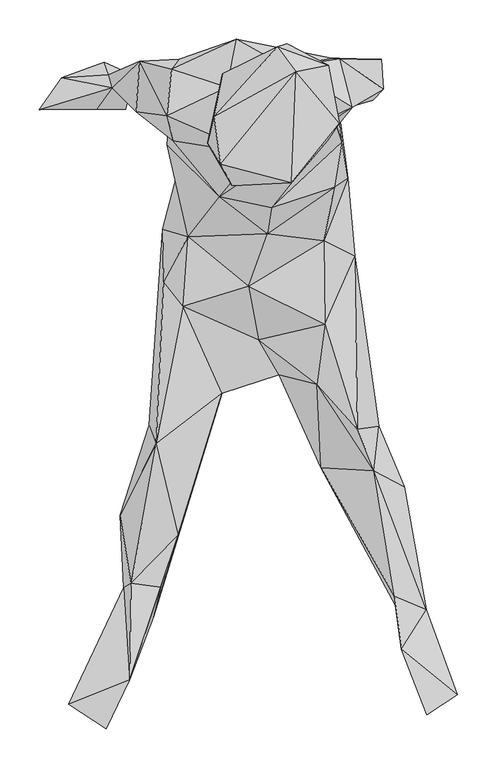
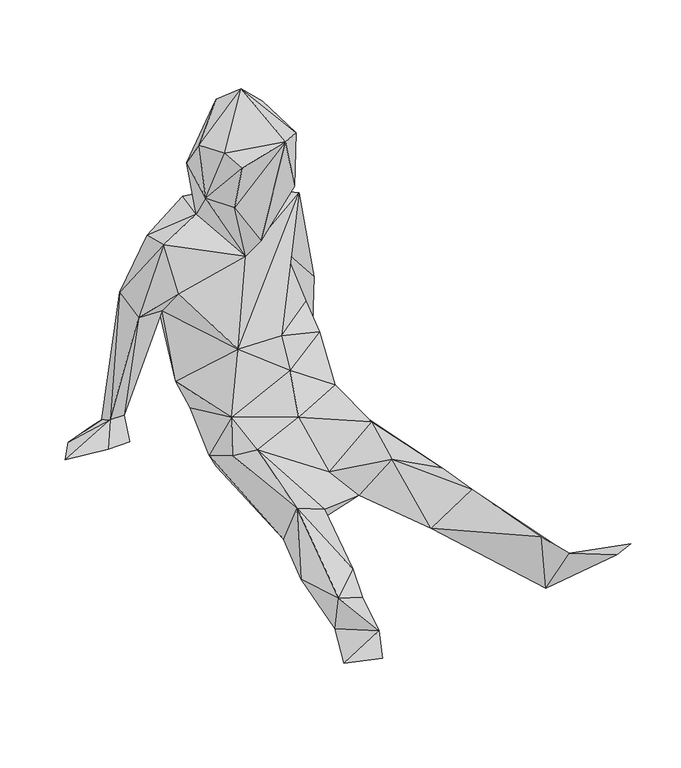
"""IFC4 building model written with IfcOpenShell, lengths in millimetres: geographic element geometry, Enscape AssetDefinition - Leon 001 Sitting : Enscape AssetDefinition - Leon 001 Sitting."""

import ifcopenshell
import ifcopenshell.guid

model = None  # the IFC model being written
_history = None  # IfcOwnerHistory: only IFC2X3 demands one
_inside = {}  # id of a spatial element -> (the spatial element, [elements in it])
_under = {}  # id of a project, library or spatial element -> (it, [spatial elements below it])
_declared = {}  # id of a project -> (the project, [libraries it declares])
_typed = {}  # id of a type object -> (the type object, [elements of that type])
_made_of = {}  # id of a material, layer set ... -> (it, [elements and type objects made of it])


def new_model(schema):
    """Start an empty IFC model of exactly this schema.

    Asked for "IFC4X3", IfcOpenShell would pick the latest addendum, in which some entities
    have other attributes; the version numbers below select the first issue.
    IFC2X3 requires an IfcOwnerHistory on every rooted entity: one is made here for all.
    """
    global model, _history
    if schema == "IFC4X3":
        model = ifcopenshell.file(schema_version=(4, 3, 0, 0))
    else:
        model = ifcopenshell.file(schema=schema)
    _inside.clear()
    _under.clear()
    _declared.clear()
    _typed.clear()
    _made_of.clear()
    _history = None
    if model.schema == "IFC2X3":
        org = make("IfcOrganization", Name="unknown")
        user = make(
            "IfcPersonAndOrganization",
            ThePerson=make("IfcPerson", FamilyName="unknown"),
            TheOrganization=org,
        )
        app = make(
            "IfcApplication",
            ApplicationDeveloper=org,
            Version="unknown",
            ApplicationFullName="unknown",
            ApplicationIdentifier="unknown",
        )
        _history = make(
            "IfcOwnerHistory",
            OwningUser=user,
            OwningApplication=app,
            ChangeAction="ADDED",
            CreationDate=0,
        )
    return model


def make(cls, **values):
    """One entity of the class cls with the attributes given. An attribute that is None is left unset."""
    return model.create_entity(
        cls, **{name: value for name, value in values.items() if value is not None}
    )


def rooted(cls, **values):
    """An entity with a GlobalId (a new one), such as an element, a storey or a relation."""
    return make(cls, GlobalId=ifcopenshell.guid.new(), OwnerHistory=_history, **values)


def si_unit(unit_type, name, prefix=None):
    """IfcSIUnit, for example si_unit("LENGTHUNIT", "METRE", prefix="MILLI")."""
    return make("IfcSIUnit", UnitType=unit_type, Prefix=prefix, Name=name)


def assignment(units):
    """IfcUnitAssignment: the units of a project."""
    return None if units is None else make("IfcUnitAssignment", Units=units)


def point(xyz):
    """IfcCartesianPoint."""
    return None if xyz is None else make("IfcCartesianPoint", Coordinates=xyz)


def direction(xyz):
    """IfcDirection."""
    return None if xyz is None else make("IfcDirection", DirectionRatios=xyz)


def frame(location, z_axis=None, x_axis=None):
    """IfcAxis2Placement3D, a coordinate frame: its origin and axes. An axis left out is left unset."""
    return make(
        "IfcAxis2Placement3D",
        Location=point(location),
        Axis=direction(z_axis),
        RefDirection=direction(x_axis),
    )


def origin():
    """The frame at (0, 0, 0) with its axes left unset."""
    return frame((0.0, 0.0, 0.0))


def place(relative_to, where):
    """IfcLocalPlacement: puts the frame where relative to a parent placement (None: the world)."""
    return make(
        "IfcLocalPlacement", PlacementRelTo=relative_to, RelativePlacement=where
    )


def context(
    kind, dimensions, precision=None, world=None, true_north=None, identifier=None
):
    """IfcGeometricRepresentationContext, for example the 3D "Model" context."""
    return make(
        "IfcGeometricRepresentationContext",
        ContextIdentifier=identifier,
        ContextType=kind,
        CoordinateSpaceDimension=dimensions,
        Precision=precision,
        WorldCoordinateSystem=world,
        TrueNorth=true_north,
    )


def project(units=None, contexts=None):
    """IfcProject with its units and contexts."""
    return rooted(
        "IfcProject",
        Name="project",
        RepresentationContexts=contexts,
        UnitsInContext=assignment(units),
    )


def spatial(cls, under=None, at=None, **own):
    """A site, building, storey or space (cls), placed at a placement, below another one or the project."""
    s = rooted(cls, ObjectPlacement=at, **own)
    if under is not None:
        _under.setdefault(under.id(), (under, []))[1].append(s)
    return s


def point_list(points):
    """IfcCartesianPointList2D or 3D."""
    cls = (
        "IfcCartesianPointList2D" if len(points[0]) == 2 else "IfcCartesianPointList3D"
    )
    return make(cls, CoordList=points)


def triangles(points, corners, closed=None, point_numbers=None):
    """IfcTriangulatedFaceSet: each triangle names its three corners, points numbered from 1."""
    return make(
        "IfcTriangulatedFaceSet",
        Coordinates=point_list(points),
        Closed=closed,
        CoordIndex=corners,
        PnIndex=point_numbers,
    )


def shape(context_of_items, identifier, shape_type, items):
    """IfcShapeRepresentation: the items that make up one representation, for example the "Body"."""
    return make(
        "IfcShapeRepresentation",
        ContextOfItems=context_of_items,
        RepresentationIdentifier=identifier,
        RepresentationType=shape_type,
        Items=items,
    )


def source(mapping_origin, context_of_items, identifier, shape_type, items):
    """IfcRepresentationMap: a shape defined once, which mapped items show again and again."""
    return make(
        "IfcRepresentationMap",
        MappingOrigin=mapping_origin,
        MappedRepresentation=shape(context_of_items, identifier, shape_type, items),
    )


def transform(
    local_origin,
    x_axis=None,
    y_axis=None,
    z_axis=None,
    scale=None,
    scale2=None,
    scale3=None,
    uniform=True,
):
    """IfcCartesianTransformationOperator3D, or its non-uniform kind. x_axis, y_axis, z_axis: its Axis1, 2, 3."""
    if uniform:
        return make(
            "IfcCartesianTransformationOperator3D",
            Axis1=direction(x_axis),
            Axis2=direction(y_axis),
            LocalOrigin=point(local_origin),
            Scale=scale,
            Axis3=direction(z_axis),
        )
    return make(
        "IfcCartesianTransformationOperator3DnonUniform",
        Axis1=direction(x_axis),
        Axis2=direction(y_axis),
        LocalOrigin=point(local_origin),
        Scale=scale,
        Axis3=direction(z_axis),
        Scale2=scale2,
        Scale3=scale3,
    )


def mapped(mapping_source, mapping_target):
    """IfcMappedItem: shows the shape of a source again, moved by a transform."""
    return make(
        "IfcMappedItem", MappingSource=mapping_source, MappingTarget=mapping_target
    )


def made_of(thing, what):
    """Note that an element or type object is made of a material, layer set ...; save() writes the relation."""
    if what is not None:
        _made_of.setdefault(what.id(), (what, []))[1].append(thing)
    return thing


def element(
    cls,
    number,
    at=None,
    inside=None,
    cuts=None,
    type_object=None,
    material=None,
    context=None,
    identifier="Body",
    shape_type=None,
    held_by="IfcProductDefinitionShape",
    body=None,
    shapes=None,
    **own,
):
    """One element of the class cls, such as IfcWall. Its Tag is "e" and its number.

    at: its placement. inside: the storey or other place that contains it. cuts: it is an
    opening in that element (IfcRelVoidsElement). A single representation is given by context,
    identifier, shape_type and body (its items); several are given by shapes. held_by: the class
    of the entity that holds the representations. save() writes the other relations.
    """
    e = rooted(cls, Tag="e%d" % number, ObjectPlacement=at, **own)
    if body is not None:
        shapes = [shape(context, identifier, shape_type, body)]
    if shapes is not None:
        e.Representation = make(held_by, Representations=shapes)
    if inside is not None:
        _inside.setdefault(inside.id(), (inside, []))[1].append(e)
    if cuts is not None:
        rooted(
            "IfcRelVoidsElement", RelatingBuildingElement=cuts, RelatedOpeningElement=e
        )
    if type_object is not None:
        _typed.setdefault(type_object.id(), (type_object, []))[1].append(e)
    return made_of(e, material)


def aggregate(whole, parts):
    """IfcRelAggregates: a whole, such as a stair, and the parts it consists of."""
    return rooted("IfcRelAggregates", RelatingObject=whole, RelatedObjects=parts)


def save(model, path):
    """Write the relations noted so far, then the file.

    IfcRelAggregates (storeys below a building ...), IfcRelContainedInSpatialStructure (elements
    in a storey), IfcRelDefinesByType, IfcRelAssociatesMaterial and IfcRelDeclares: one each for
    every whole, place, type object, material and project.
    """
    for whole, parts in _under.values():
        aggregate(whole, parts)
    for where, things in _inside.values():
        rooted(
            "IfcRelContainedInSpatialStructure",
            RelatedElements=things,
            RelatingStructure=where,
        )
    for kind, things in _typed.values():
        rooted("IfcRelDefinesByType", RelatedObjects=things, RelatingType=kind)
    for what, things in _made_of.values():
        rooted("IfcRelAssociatesMaterial", RelatedObjects=things, RelatingMaterial=what)
    for by, libraries in _declared.values():
        rooted("IfcRelDeclares", RelatingContext=by, RelatedDefinitions=libraries)
    model.write(path)


def geographic_element_b5739e92(model_context):
    return source(origin(), model_context, "Body", "Tessellation", [
        triangles([(-111.6778672, -178.4096224, 47.2199875), (-225.0076321, 43.7362067, 2.806821), (-207.6897393, -202.103089, 39.7834637), (-183.5162875, -201.9141107, 62.0330413), (-239.1817487, -381.5666442, 82.5187368), (-267.2279474, -265.6660333, 131.0076375), (-270.4217387, -484.8850834, 14.9150485), (-299.0299125, -442.2437908, 88.6213439), (-308.2243186, -448.3763743, 40.6004061), (-300.8877933, -564.946948, 105.9732281), (-261.5272961, -447.8614348, 80.3708664), (-312.9360223, -356.2602674, 75.4381869), (-276.1583616, -242.2055285, 64.7868658), (-257.6975517, -60.401146, 97.8667552), (-233.2191221, -91.462168, 118.5694342), (-259.1534585, 6.1836052, 58.94424), (-226.5465461, -3.7637598, 120.8422878), (-149.8424435, -66.3577637, 132.3465547), (-231.7062239, 109.2190329, 71.0924629), (-253.6358265, 113.1787748, 124.0860851), (-249.5380752, 159.7468081, 220.4069499), (-186.7061, 47.0769957, 197.5583809), (-292.6183308, 155.0771077, 225.5036047), (-245.8053088, 118.2314552, 275.0564485), (-253.3288321, 149.7304409, 345.6669459), (-299.5058827, 185.3171768, 35.8337116), (-303.7096232, 198.9552979, 1.9238772), (-305.8844905, 157.9259163, 6.7475691), (-386.7812968, 197.9623715, 9.7373792), (-323.1073854, 185.3171768, 35.8337116), (-415.3044831, 157.6489347, 13.0261694), (-342.6111732, 157.9259163, 6.7475691), (-333.5227017, 217.8470953, 9.9433656), (-297.9499639, 201.9291171, 27.6322364), (-327.7630969, 201.9291171, 27.6322364), (-238.333799, 221.0389063, 263.4182054), (-288.0906093, 218.8310287, 231.1232471), (-165.3814387, 246.3812729, 343.1861017), (-247.4612034, 208.5806914, 325.2032241), (-177.2886879, 185.5471591, 352.431504), (-193.612637, 148.4115262, 504.1107994), (-113.4997581, 237.3148569, 504.385819), (-183.3472934, 203.2610307, 435.8001798), (-101.610522, 240.8546299, 425.9528157), (-48.6968913, 214.0193311, 491.5896523), (-89.6982767, 205.1959235, 533.7669107), (-185.4881511, 88.5343489, 522.4556826), (-34.5107955, 140.0140645, 475.6666054), (-132.2435632, 74.189267, 356.821207), (-49.9198136, 118.3534408, 398.290587), (-171.1560681, 61.3360862, 507.12664), (-95.6189001, 64.9218548, 526.4493705), (-202.3520745, 115.1126593, 432.5883845), (-174.1319039, 78.0690175, 427.4497084), (-141.9679333, 101.3135289, 315.4448444), (-103.2094161, 211.9964713, 360.0290053), (-121.0582721, 33.4908632, 206.8968008), (-18.0628487, 160.5977554, 349.6376701), (-44.3911721, 153.9931804, 257.3745518), (18.4018258, 221.6988587, 0.0049997), (-34.0048307, 222.1968116, 320.9435277), (20.7166792, 183.176301, 172.3099947), (-44.1731804, 222.5408132, 247.2412313), (-31.5849862, 116.3795696, 187.4670456), (7.7115081, 169.598169, 16.6579369), (-2.9778101, 188.6729676, 33.3108755), (-54.3325303, -8.7244436, 122.0622079), (-15.3420209, -28.1712024, 63.2329636), (-23.7314866, 70.3585143, 72.5903639), (-34.5057949, -210.5685606, 7.8744972), (-55.7184422, 52.5996464, 5.3986553), (15.1600315, -243.8264325, 28.0082127), (-11.7872484, -247.7361866, 103.7943822), (-53.4725855, -114.0867136, 119.5273699), (-137.180235, -134.3284286, 71.5124364), (8.9864263, -299.9238623, 89.0063222), (35.1517584, -458.9726752, 92.0931251), (36.2236883, -470.1229757, 5.6496393), (-58.1552893, -296.2180929, 40.8343989), (-63.3449571, -190.4968389, 101.9544963), (75.4611779, -475.8876311, 54.2495411), (114.5826771, -583.5767338, 127.3228697), (47.7079573, -320.4185234, 33.2948745), (76.0171487, -609.4270818, 136.4212969), (43.6452148, -526.2484016, 100.5305916), (-41.3803548, 59.4612007, 170.8141013), (-125.8769641, 0.061996, 167.7422866), (-377.8948843, -595.8190098, 93.1000676), (-330.9368494, -626.6359514, 104.5993294)], [[10, 89, 7], [7, 11, 10], [89, 10, 88], [89, 88, 7], [9, 7, 88], [88, 10, 9], [57, 22, 87], [86, 57, 87], [86, 87, 67], [87, 18, 67], [67, 18, 74], [15, 75, 18], [74, 18, 75], [85, 84, 82], [78, 82, 84], [78, 84, 85], [78, 72, 83], [78, 83, 81], [78, 81, 82], [81, 85, 82], [85, 77, 78], [81, 77, 85], [76, 83, 72], [83, 76, 81], [77, 81, 76], [76, 72, 73], [74, 75, 80], [80, 73, 74], [73, 80, 76], [80, 79, 76], [78, 77, 79], [76, 79, 77], [75, 1, 80], [15, 1, 75], [80, 1, 79], [79, 70, 78], [70, 79, 1], [78, 70, 72], [74, 73, 68], [68, 73, 72], [70, 68, 72], [67, 74, 68], [1, 71, 70], [70, 71, 68], [69, 86, 67], [69, 68, 71], [67, 68, 69], [57, 86, 64], [86, 69, 64], [69, 71, 63], [64, 69, 63], [63, 60, 66], [66, 60, 65], [59, 66, 65], [59, 57, 64], [63, 59, 64], [63, 66, 59], [62, 65, 60], [62, 59, 65], [60, 63, 61], [60, 61, 62], [62, 61, 58], [62, 58, 59], [22, 57, 58], [58, 57, 59], [58, 55, 22], [56, 61, 63], [55, 58, 56], [56, 58, 61], [50, 55, 56], [49, 55, 50], [54, 55, 49], [53, 55, 54], [54, 51, 53], [51, 47, 53], [47, 51, 52], [51, 54, 52], [49, 50, 52], [52, 54, 49], [48, 52, 50], [50, 45, 48], [45, 50, 56], [48, 45, 46], [52, 48, 46], [47, 52, 46], [47, 41, 53], [46, 41, 47], [41, 46, 42], [45, 42, 46], [56, 44, 45], [42, 45, 44], [41, 42, 43], [53, 41, 43], [44, 43, 42], [44, 56, 40], [43, 44, 40], [40, 53, 43], [55, 53, 40], [25, 55, 40], [39, 37, 25], [39, 25, 40], [38, 40, 56], [40, 38, 39], [56, 63, 38], [36, 37, 39], [38, 36, 39], [63, 36, 38], [37, 36, 34], [34, 35, 37], [33, 35, 34], [35, 33, 29], [34, 27, 33], [32, 33, 27], [33, 32, 29], [29, 32, 31], [37, 35, 30], [30, 35, 29], [30, 31, 32], [30, 29, 31], [27, 28, 32], [30, 32, 28], [26, 28, 27], [27, 34, 26], [28, 26, 30], [30, 23, 37], [23, 30, 26], [23, 25, 37], [25, 24, 55], [23, 24, 25], [22, 55, 24], [34, 36, 21], [21, 26, 34], [26, 21, 23], [24, 23, 21], [21, 22, 24], [21, 20, 22], [21, 36, 20], [36, 19, 20], [71, 19, 63], [36, 63, 19], [19, 17, 20], [18, 17, 15], [22, 17, 87], [18, 87, 17], [20, 17, 22], [16, 17, 19], [17, 16, 14], [17, 14, 15], [14, 16, 13], [12, 13, 9], [11, 8, 10], [8, 9, 10], [8, 12, 9], [5, 8, 11], [7, 5, 11], [6, 13, 12], [6, 8, 5], [8, 6, 12], [6, 14, 13], [15, 14, 6], [15, 4, 1], [5, 7, 4], [4, 6, 5], [15, 6, 4], [4, 3, 1], [7, 3, 4], [9, 3, 7], [9, 13, 3], [19, 2, 16], [2, 19, 71], [3, 2, 1], [16, 2, 13], [3, 13, 2], [2, 71, 1]]),
    ])


if __name__ == "__main__":
    model = new_model("IFC4")
    model_context = context("Model", 3, world=origin())
    ifc_project = project(units=[si_unit("LENGTHUNIT", "METRE", prefix="MILLI")], contexts=[model_context])
    site = spatial("IfcSite", under=ifc_project)
    building = spatial("IfcBuilding", under=site)
    placement = place(None, origin())
    geographic_element_shape = geographic_element_b5739e92(model_context)
    element("IfcGeographicElement", 1, ObjectType="Enscape AssetDefinition - Leon 001 Sitting : Enscape AssetDefinition - Leon 001 Sitting", at=placement, inside=building, context=model_context, shape_type="MappedRepresentation", body=[
        mapped(geographic_element_shape, transform((0.0, 0.0, 0.0), x_axis=(1.0, 0.0, 0.0), y_axis=(0.0, 1.0, 0.0), z_axis=(0.0, 0.0, 1.0))),
    ])
    save(model, "model.ifc")
